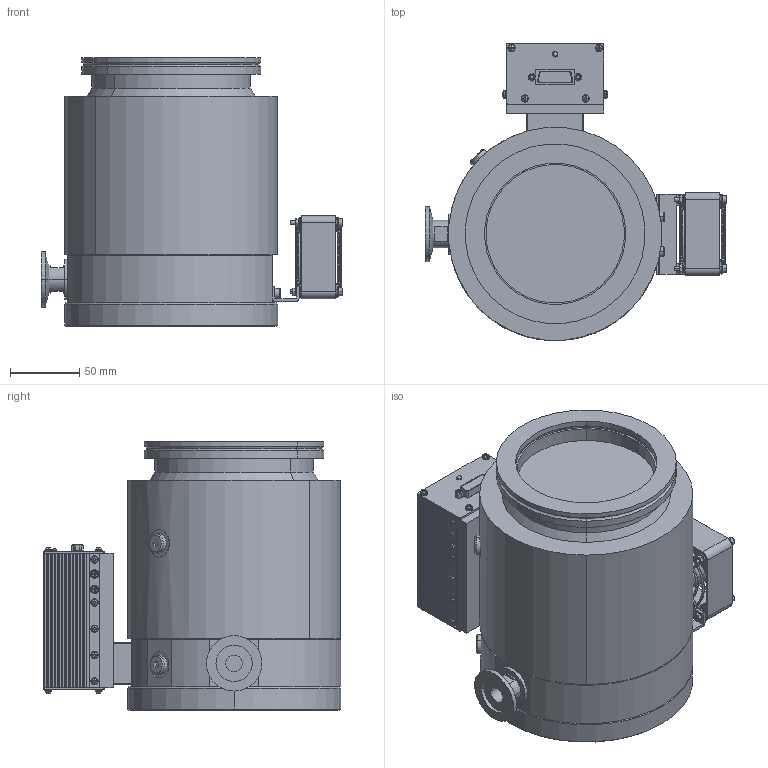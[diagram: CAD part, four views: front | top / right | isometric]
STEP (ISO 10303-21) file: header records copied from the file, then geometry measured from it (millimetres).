
FILE_DESCRIPTION(('Creo Elements/Direct Modeling STEP Export'),'2;1');
FILE_NAME('TG240FRABdel.stp','2018-03-13T13:20:20',(''),(''),'Creo Elements/Direct Modeling STEP processor for AP214 (Solid Model)','Creo Elements/Direct Modeling 18.1E 22-Nov-2013 (C) Parametric Technology GmbH','');
FILE_SCHEMA(('AUTOMOTIVE_DESIGN { 1 0 10303 214 1 1 1 1 }'));
Length unit declared in the file: millimetre
Products named in the file (37): M6____.PRT; M4____.PRT; M6__15____.PRT; TG240F-HAIKI.PRT; SPN_1_L____.PRT; FAN___T___________.PRT; M3W____.PRT; M3___35____.PRT; M3_I_B_G____.PRT; 109P0624H402____.PRT; NONE-8085.PRT; NONE-10205.PRT; NONE-10270.PRT; 109-139E____.ASM; NONE-4751.PRT; NONE-4814.PRT; NONE-4865.PRT; ___109-139E_______.ASM; TG240FFAN____.ASM; TG240F-CASING_R.PRT; TG240F-COVER.PRT; TG240F-HOUSING.PRT; DEFAULT-5____.PRT; DEFAULT-9____.PRT; DEFAULT-8____.PRT; DEFAULT-7____.PRT; DEFAULT____-47968.ASM; DEFAULT-6____.PRT; DEFAULT-1____-48012.PRT; DEFAULT-4____.PRT; DEFAULT-3____.PRT; DEFAULT-2____.PRT; DEFAULT____-48036.PRT; DEFAULT-1____-48045.ASM; _R___G_________________.ASM; TG240FRAB.ASM; TG240FRAB.STEP
Assembly tree (86 placements, depth 6):
  TG240FRAB.STEP
    TG240FRAB.ASM
      M6__15____.PRT  x8
      M6____.PRT  x8
      M4____.PRT  x2
      _R___G_________________.ASM
        DEFAULT-1____-48045.ASM
          DEFAULT____-48036.PRT
          DEFAULT-5____.PRT  x18
          DEFAULT____-47968.ASM  x4
            DEFAULT-7____.PRT
            DEFAULT-8____.PRT
            DEFAULT-9____.PRT
          DEFAULT-2____.PRT
          DEFAULT-3____.PRT
          DEFAULT-4____.PRT  x2
          DEFAULT-1____-48012.PRT
          DEFAULT-6____.PRT
      TG240F-HOUSING.PRT
      TG240F-COVER.PRT
      TG240F-CASING_R.PRT
      TG240FFAN____.ASM
        M3W____.PRT  x8
        M3_I_B_G____.PRT  x4
        M3___35____.PRT  x4
        ___109-139E_______.ASM
          NONE-4865.PRT
          NONE-4814.PRT
          NONE-4751.PRT
        109-139E____.ASM
          NONE-10270.PRT
          NONE-10205.PRT
          NONE-8085.PRT
        109P0624H402____.PRT
        FAN___T___________.PRT
      SPN_1_L____.PRT  x2
      TG240F-HAIKI.PRT
Bounding box: 218.1 x 214.8 x 194.2 mm (x, y, z)
Volume: 3648105.9 mm3; surface area: 345733.4 mm2
Topology: 85 solids, 85 shells, 2688 faces, 6438 edges, 4052 vertices
Faces by surface type: plane 1213, cylinder 876, cone 270, torus 228, bspline 96, sphere 5
Entity records: 62894 total; most frequent: CARTESIAN_POINT 27039, ORIENTED_EDGE 6468, DIRECTION 5838, EDGE_CURVE 3234, VERTEX_POINT 2088, AXIS2_PLACEMENT_3D 2016, VECTOR 1806, LINE 1806
